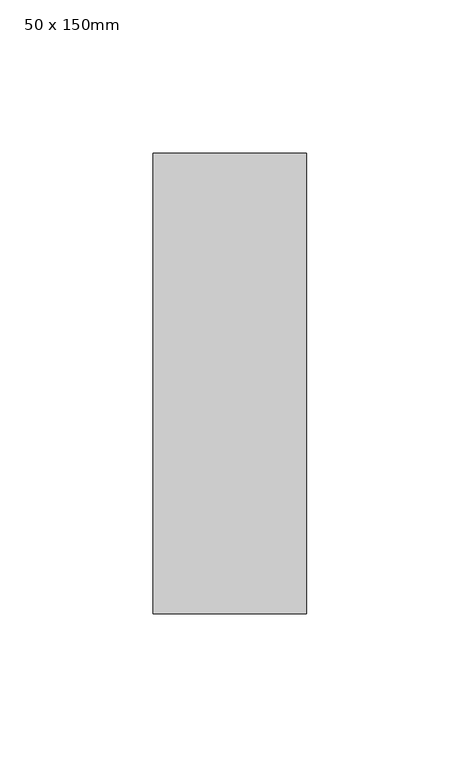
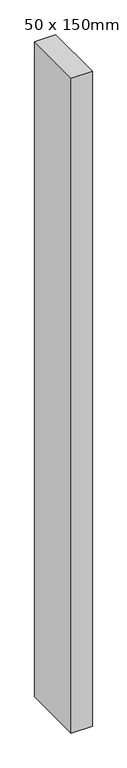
"""IFC4 building model written with IfcOpenShell, lengths in millimetres: member geometry, 矩形竖梃 : 50 x 150mm."""

import ifcopenshell
import ifcopenshell.guid

model = None  # the IFC model being written
_history = None  # IfcOwnerHistory: only IFC2X3 demands one
_inside = {}  # id of a spatial element -> (the spatial element, [elements in it])
_under = {}  # id of a project, library or spatial element -> (it, [spatial elements below it])
_declared = {}  # id of a project -> (the project, [libraries it declares])
_typed = {}  # id of a type object -> (the type object, [elements of that type])
_made_of = {}  # id of a material, layer set ... -> (it, [elements and type objects made of it])


def new_model(schema):
    """Start an empty IFC model of exactly this schema.

    Asked for "IFC4X3", IfcOpenShell would pick the latest addendum, in which some entities
    have other attributes; the version numbers below select the first issue.
    IFC2X3 requires an IfcOwnerHistory on every rooted entity: one is made here for all.
    """
    global model, _history
    if schema == "IFC4X3":
        model = ifcopenshell.file(schema_version=(4, 3, 0, 0))
    else:
        model = ifcopenshell.file(schema=schema)
    _inside.clear()
    _under.clear()
    _declared.clear()
    _typed.clear()
    _made_of.clear()
    _history = None
    if model.schema == "IFC2X3":
        org = make("IfcOrganization", Name="unknown")
        user = make(
            "IfcPersonAndOrganization",
            ThePerson=make("IfcPerson", FamilyName="unknown"),
            TheOrganization=org,
        )
        app = make(
            "IfcApplication",
            ApplicationDeveloper=org,
            Version="unknown",
            ApplicationFullName="unknown",
            ApplicationIdentifier="unknown",
        )
        _history = make(
            "IfcOwnerHistory",
            OwningUser=user,
            OwningApplication=app,
            ChangeAction="ADDED",
            CreationDate=0,
        )
    return model


def make(cls, **values):
    """One entity of the class cls with the attributes given. An attribute that is None is left unset."""
    return model.create_entity(
        cls, **{name: value for name, value in values.items() if value is not None}
    )


def rooted(cls, **values):
    """An entity with a GlobalId (a new one), such as an element, a storey or a relation."""
    return make(cls, GlobalId=ifcopenshell.guid.new(), OwnerHistory=_history, **values)


def si_unit(unit_type, name, prefix=None):
    """IfcSIUnit, for example si_unit("LENGTHUNIT", "METRE", prefix="MILLI")."""
    return make("IfcSIUnit", UnitType=unit_type, Prefix=prefix, Name=name)


def assignment(units):
    """IfcUnitAssignment: the units of a project."""
    return None if units is None else make("IfcUnitAssignment", Units=units)


def point(xyz):
    """IfcCartesianPoint."""
    return None if xyz is None else make("IfcCartesianPoint", Coordinates=xyz)


def direction(xyz):
    """IfcDirection."""
    return None if xyz is None else make("IfcDirection", DirectionRatios=xyz)


def frame(location, z_axis=None, x_axis=None):
    """IfcAxis2Placement3D, a coordinate frame: its origin and axes. An axis left out is left unset."""
    return make(
        "IfcAxis2Placement3D",
        Location=point(location),
        Axis=direction(z_axis),
        RefDirection=direction(x_axis),
    )


def origin():
    """The frame at (0, 0, 0) with its axes left unset."""
    return frame((0.0, 0.0, 0.0))


def place(relative_to, where):
    """IfcLocalPlacement: puts the frame where relative to a parent placement (None: the world)."""
    return make(
        "IfcLocalPlacement", PlacementRelTo=relative_to, RelativePlacement=where
    )


def context(
    kind, dimensions, precision=None, world=None, true_north=None, identifier=None
):
    """IfcGeometricRepresentationContext, for example the 3D "Model" context."""
    return make(
        "IfcGeometricRepresentationContext",
        ContextIdentifier=identifier,
        ContextType=kind,
        CoordinateSpaceDimension=dimensions,
        Precision=precision,
        WorldCoordinateSystem=world,
        TrueNorth=true_north,
    )


def project(units=None, contexts=None):
    """IfcProject with its units and contexts."""
    return rooted(
        "IfcProject",
        Name="project",
        RepresentationContexts=contexts,
        UnitsInContext=assignment(units),
    )


def spatial(cls, under=None, at=None, **own):
    """A site, building, storey or space (cls), placed at a placement, below another one or the project."""
    s = rooted(cls, ObjectPlacement=at, **own)
    if under is not None:
        _under.setdefault(under.id(), (under, []))[1].append(s)
    return s


def polyline(points):
    """IfcPolyline through the points."""
    return make("IfcPolyline", Points=[point(p) for p in points])


def outline(outer, holes=None, kind="AREA"):
    """IfcArbitraryClosedProfileDef: a profile drawn as a closed curve; with holes, ...WithVoids."""
    if holes is None:
        return make("IfcArbitraryClosedProfileDef", ProfileType=kind, OuterCurve=outer)
    return make(
        "IfcArbitraryProfileDefWithVoids",
        ProfileType=kind,
        OuterCurve=outer,
        InnerCurves=holes,
    )


def extrude(swept, where, along, depth):
    """IfcExtrudedAreaSolid: the profile swept, set in the frame where, extruded along a direction by depth."""
    return make(
        "IfcExtrudedAreaSolid",
        SweptArea=swept,
        Position=where,
        ExtrudedDirection=direction(along),
        Depth=depth,
    )


def shape(context_of_items, identifier, shape_type, items):
    """IfcShapeRepresentation: the items that make up one representation, for example the "Body"."""
    return make(
        "IfcShapeRepresentation",
        ContextOfItems=context_of_items,
        RepresentationIdentifier=identifier,
        RepresentationType=shape_type,
        Items=items,
    )


def source(mapping_origin, context_of_items, identifier, shape_type, items):
    """IfcRepresentationMap: a shape defined once, which mapped items show again and again."""
    return make(
        "IfcRepresentationMap",
        MappingOrigin=mapping_origin,
        MappedRepresentation=shape(context_of_items, identifier, shape_type, items),
    )


def transform(
    local_origin,
    x_axis=None,
    y_axis=None,
    z_axis=None,
    scale=None,
    scale2=None,
    scale3=None,
    uniform=True,
):
    """IfcCartesianTransformationOperator3D, or its non-uniform kind. x_axis, y_axis, z_axis: its Axis1, 2, 3."""
    if uniform:
        return make(
            "IfcCartesianTransformationOperator3D",
            Axis1=direction(x_axis),
            Axis2=direction(y_axis),
            LocalOrigin=point(local_origin),
            Scale=scale,
            Axis3=direction(z_axis),
        )
    return make(
        "IfcCartesianTransformationOperator3DnonUniform",
        Axis1=direction(x_axis),
        Axis2=direction(y_axis),
        LocalOrigin=point(local_origin),
        Scale=scale,
        Axis3=direction(z_axis),
        Scale2=scale2,
        Scale3=scale3,
    )


def mapped(mapping_source, mapping_target):
    """IfcMappedItem: shows the shape of a source again, moved by a transform."""
    return make(
        "IfcMappedItem", MappingSource=mapping_source, MappingTarget=mapping_target
    )


def made_of(thing, what):
    """Note that an element or type object is made of a material, layer set ...; save() writes the relation."""
    if what is not None:
        _made_of.setdefault(what.id(), (what, []))[1].append(thing)
    return thing


def element(
    cls,
    number,
    at=None,
    inside=None,
    cuts=None,
    type_object=None,
    material=None,
    context=None,
    identifier="Body",
    shape_type=None,
    held_by="IfcProductDefinitionShape",
    body=None,
    shapes=None,
    **own,
):
    """One element of the class cls, such as IfcWall. Its Tag is "e" and its number.

    at: its placement. inside: the storey or other place that contains it. cuts: it is an
    opening in that element (IfcRelVoidsElement). A single representation is given by context,
    identifier, shape_type and body (its items); several are given by shapes. held_by: the class
    of the entity that holds the representations. save() writes the other relations.
    """
    e = rooted(cls, Tag="e%d" % number, ObjectPlacement=at, **own)
    if body is not None:
        shapes = [shape(context, identifier, shape_type, body)]
    if shapes is not None:
        e.Representation = make(held_by, Representations=shapes)
    if inside is not None:
        _inside.setdefault(inside.id(), (inside, []))[1].append(e)
    if cuts is not None:
        rooted(
            "IfcRelVoidsElement", RelatingBuildingElement=cuts, RelatedOpeningElement=e
        )
    if type_object is not None:
        _typed.setdefault(type_object.id(), (type_object, []))[1].append(e)
    return made_of(e, material)


def aggregate(whole, parts):
    """IfcRelAggregates: a whole, such as a stair, and the parts it consists of."""
    return rooted("IfcRelAggregates", RelatingObject=whole, RelatedObjects=parts)


def save(model, path):
    """Write the relations noted so far, then the file.

    IfcRelAggregates (storeys below a building ...), IfcRelContainedInSpatialStructure (elements
    in a storey), IfcRelDefinesByType, IfcRelAssociatesMaterial and IfcRelDeclares: one each for
    every whole, place, type object, material and project.
    """
    for whole, parts in _under.values():
        aggregate(whole, parts)
    for where, things in _inside.values():
        rooted(
            "IfcRelContainedInSpatialStructure",
            RelatedElements=things,
            RelatingStructure=where,
        )
    for kind, things in _typed.values():
        rooted("IfcRelDefinesByType", RelatedObjects=things, RelatingType=kind)
    for what, things in _made_of.values():
        rooted("IfcRelAssociatesMaterial", RelatedObjects=things, RelatingMaterial=what)
    for by, libraries in _declared.values():
        rooted("IfcRelDeclares", RelatingContext=by, RelatedDefinitions=libraries)
    model.write(path)


def member_50_x_150mm_9413a2d2(model_context):
    return source(origin(), model_context, "Body", "SweptSolid", [
        extrude(outline(polyline([(0.0, 75.0), (0.0, -75.0), (-50.0, -75.0), (-50.0, 75.0), (0.0, 75.0)])), frame((0.0, 0.0, -1641.6666667), z_axis=(0.0, 0.0, 1.0), x_axis=(1.0, 0.0, 0.0)), (0.0, 0.0, 1.0), 1641.6666667),
    ])


if __name__ == "__main__":
    model = new_model("IFC4")
    model_context = context("Model", 3, world=origin())
    ifc_project = project(units=[si_unit("LENGTHUNIT", "METRE", prefix="MILLI")], contexts=[model_context])
    site = spatial("IfcSite", under=ifc_project)
    building = spatial("IfcBuilding", under=site)
    placement = place(None, origin())
    member_50_x_150mm_shape = member_50_x_150mm_9413a2d2(model_context)
    element("IfcMember", 1, ObjectType="矩形竖梃 : 50 x 150mm", at=placement, inside=building, context=model_context, shape_type="MappedRepresentation", body=[
        mapped(member_50_x_150mm_shape, transform((0.0, 0.0, 0.0), x_axis=(1.0, 0.0, 0.0), y_axis=(0.0, 1.0, 0.0), z_axis=(0.0, 0.0, 1.0))),
    ])
    save(model, "model.ifc")
